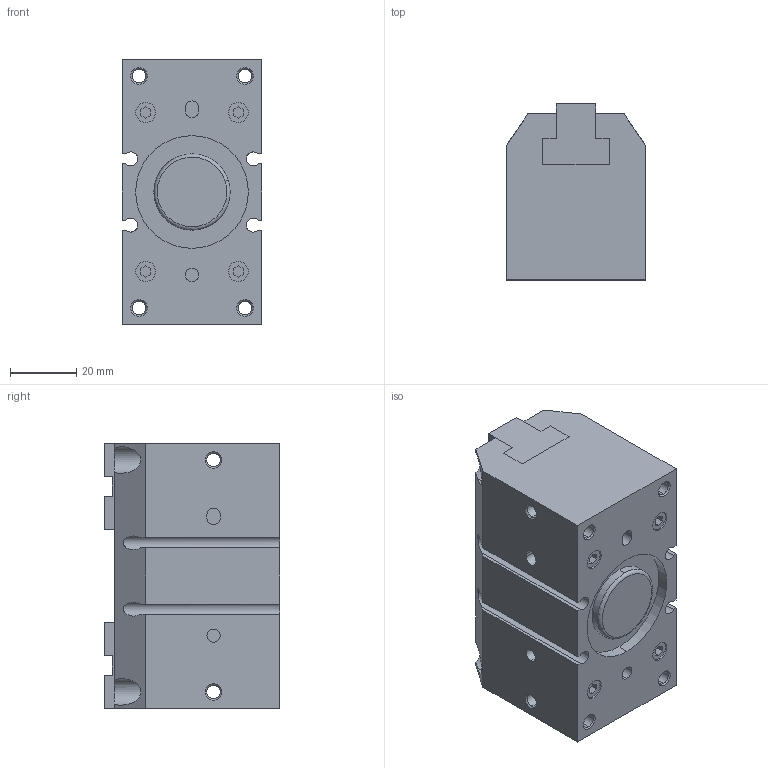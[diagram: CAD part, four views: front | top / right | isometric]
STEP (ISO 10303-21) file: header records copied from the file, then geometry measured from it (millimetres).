
FILE_DESCRIPTION (( 'STEP AP203' ), '1' );
FILE_NAME ('SDW32_0_.STEP', '2022-10-17T02:11:08', ( '' ), ( '' ), 'SwSTEP 2.0', 'SolidWorks 2018', '' );
FILE_SCHEMA (( 'CONFIG_CONTROL_DESIGN' ));
Length unit declared in the file: millimetre
Products named in the file (3): SDW32-01; SDW32_0_; SDW32-06
Assembly tree (3 placements, depth 2):
  SDW32_0_
    SDW32-01  x2
    SDW32-06
Bounding box: 42 x 53 x 80 mm (x, y, z)
Volume: 153041 mm3; surface area: 32477.4 mm2
Topology: 3 solids, 3 shells, 262 faces, 640 edges, 412 vertices
Faces by surface type: plane 152, cylinder 84, cone 24, torus 2
Entity records: 7681 total; most frequent: CARTESIAN_POINT 1680, DIRECTION 1176, ORIENTED_EDGE 1156, EDGE_CURVE 578, LINE 396, VECTOR 396, AXIS2_PLACEMENT_3D 390, VERTEX_POINT 372
